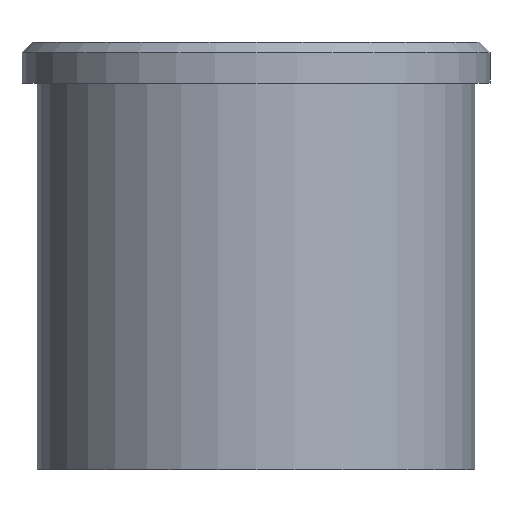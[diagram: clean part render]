
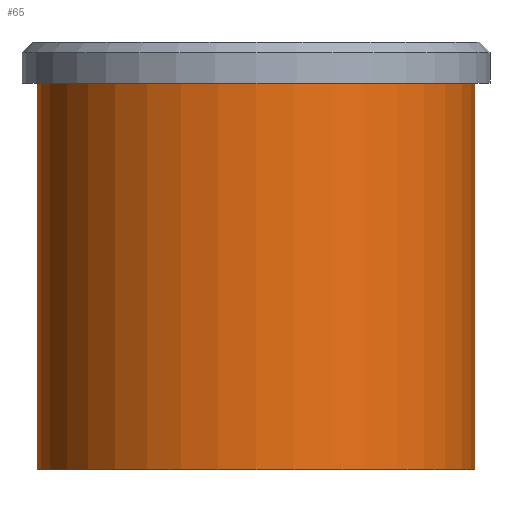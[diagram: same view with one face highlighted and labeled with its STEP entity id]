
A CAD part, front view. The second image highlights one B-rep face of the part: STEP entity #65.
In plain terms, the highlighted cylindrical face has radius 10.75 mm (diameter 21.5 mm), a full revolution.
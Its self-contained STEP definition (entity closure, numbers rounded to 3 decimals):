
#6 = EDGE_LOOP ( 'NONE', ( #136 ) ) ;
#22 = AXIS2_PLACEMENT_3D ( 'NONE', #69, #160, #132 ) ;
#31 = VERTEX_POINT ( 'NONE', #60 ) ;
#38 = DIRECTION ( 'NONE',  ( 1., 0., 0. ) ) ;
#60 = CARTESIAN_POINT ( 'NONE',  ( 10.75, 0., -21. ) ) ;
#65 = ADVANCED_FACE ( 'NONE', ( #130, #115 ), #184, .T. ) ;
#68 = EDGE_LOOP ( 'NONE', ( #189 ) ) ;
#69 = CARTESIAN_POINT ( 'NONE',  ( 0., 0., 7.209 ) ) ;
#70 = CARTESIAN_POINT ( 'NONE',  ( 0., 0., -2. ) ) ;
#73 = AXIS2_PLACEMENT_3D ( 'NONE', #178, #171, #156 ) ;
#110 = DIRECTION ( 'NONE',  ( 0., 0., 1. ) ) ;
#112 = AXIS2_PLACEMENT_3D ( 'NONE', #70, #110, #38 ) ;
#115 = FACE_OUTER_BOUND ( 'NONE', #6, .T. ) ;
#118 = EDGE_CURVE ( 'NONE', #193, #193, #150, .T. ) ;
#130 = FACE_OUTER_BOUND ( 'NONE', #68, .T. ) ;
#132 = DIRECTION ( 'NONE',  ( 1., 0., 0. ) ) ;
#135 = CARTESIAN_POINT ( 'NONE',  ( 10.75, 0., -2. ) ) ;
#136 = ORIENTED_EDGE ( 'NONE', *, *, #197, .T. ) ;
#150 = CIRCLE ( 'NONE', #112, 10.75 ) ;
#156 = DIRECTION ( 'NONE',  ( 1., 0., 0. ) ) ;
#160 = DIRECTION ( 'NONE',  ( 0., 0., 1. ) ) ;
#170 = CIRCLE ( 'NONE', #73, 10.75 ) ;
#171 = DIRECTION ( 'NONE',  ( 0., 0., 1. ) ) ;
#178 = CARTESIAN_POINT ( 'NONE',  ( 0., 0., -21. ) ) ;
#184 = CYLINDRICAL_SURFACE ( 'NONE', #22, 10.75 ) ;
#189 = ORIENTED_EDGE ( 'NONE', *, *, #118, .F. ) ;
#193 = VERTEX_POINT ( 'NONE', #135 ) ;
#197 = EDGE_CURVE ( 'NONE', #31, #31, #170, .T. ) ;
